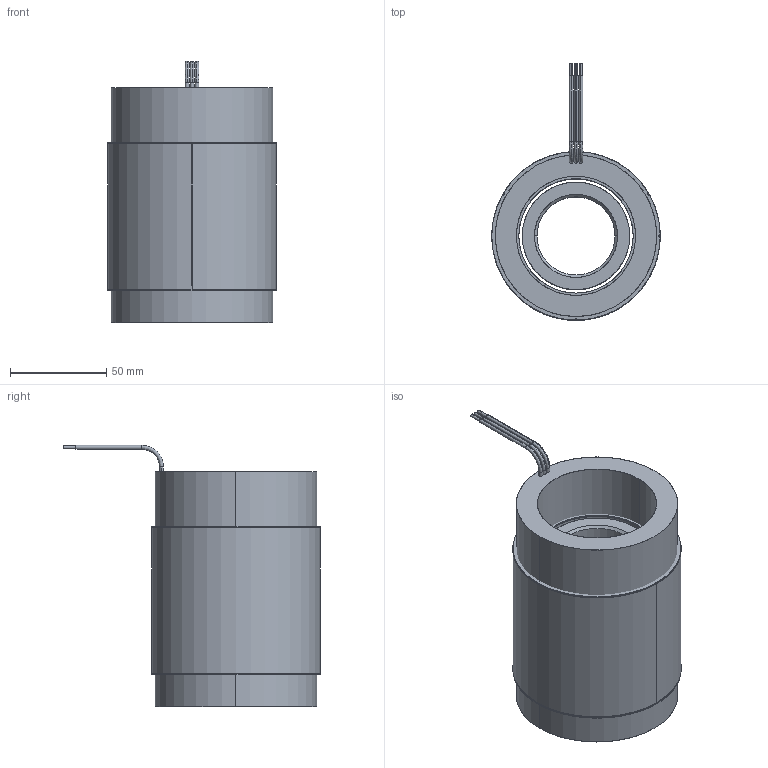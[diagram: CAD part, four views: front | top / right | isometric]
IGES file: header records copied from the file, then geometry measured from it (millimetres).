
Start section: SolidWorks IGES file using analytic representation for surfaces
Global section: file name: \\fs01.aveox.local\user documents\eng\My Documents\STANDARD STATOR ROTOR SETS\Standard rotor and stator set released\3.45 inch stator diameter\6100253-04.IGS; native system: SolidWorks 2016; preprocessor: SolidWorks 2016; author: eng; date: 191111.092110; units: millimetre
Bounding box: 87.63 x 133.34 x 135.89 mm (x, y, z)
Surface area: 155607.6 mm2 (no closed solid volume)
Topology: 0 solids, 0 shells, 91 faces, 2424 edges, 2424 vertices
Faces by surface type: revolution 65, bspline 26
